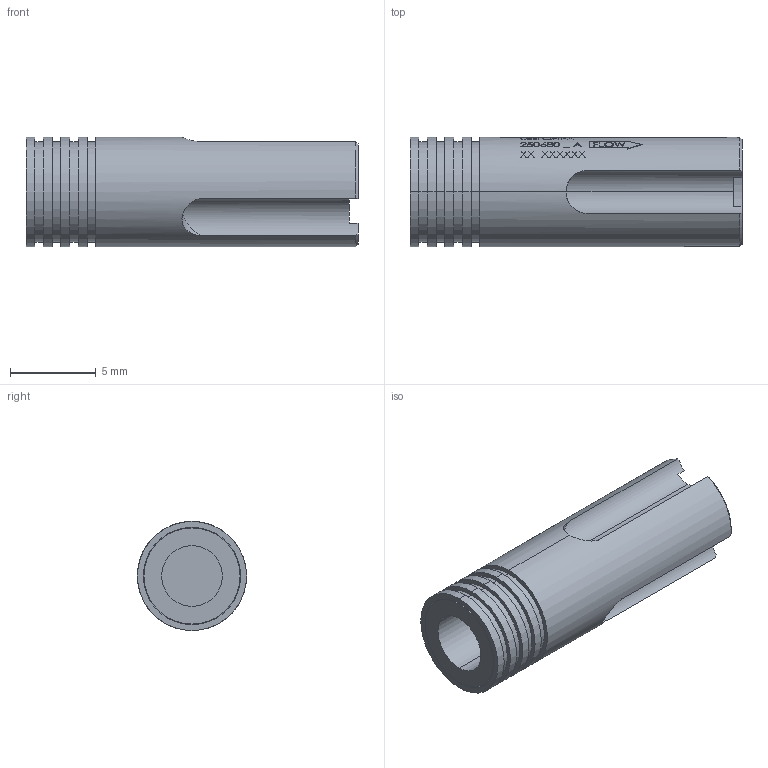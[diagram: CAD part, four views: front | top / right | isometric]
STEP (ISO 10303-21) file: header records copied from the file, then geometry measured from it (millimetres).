
FILE_DESCRIPTION (( 'STEP AP214' ), '1' );
FILE_NAME ('3DCHFA250680-A.STEP', '2022-09-13T13:13:27', ( '' ), ( '' ), 'SwSTEP 2.0', 'SolidWorks 2021', '' );
FILE_SCHEMA (( 'AUTOMOTIVE_DESIGN' ));
Length unit declared in the file: inch
Products named in the file (1): 3DCHFA250680-A
Bounding box: 19.3 x 6.35 x 6.35 mm (x, y, z)
Volume: 485.2 mm3; surface area: 561.6 mm2
Topology: 1 solids, 1 shells, 398 faces, 1045 edges, 696 vertices
Faces by surface type: bspline 172, plane 152, cylinder 69, cone 5
Entity records: 19947 total; most frequent: CARTESIAN_POINT 7200, ORIENTED_EDGE 2090, DIRECTION 1071, EDGE_CURVE 1045, VERTEX_POINT 696, B_SPLINE_CURVE_WITH_KNOTS 583, EDGE_LOOP 445, FACE_OUTER_BOUND 398
